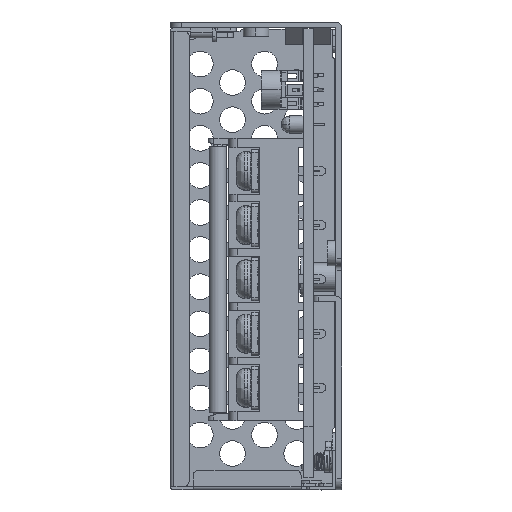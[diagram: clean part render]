
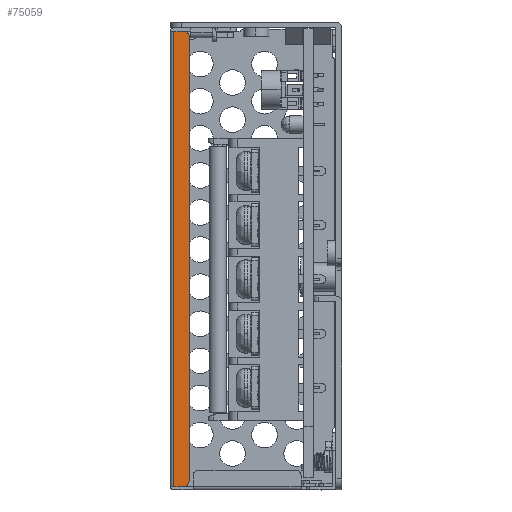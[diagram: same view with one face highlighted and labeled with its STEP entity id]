
A CAD part, left-side view. The second image highlights one B-rep face of the part: STEP entity #75059.
In plain terms, the highlighted planar face has unit normal (1, 0, 0).
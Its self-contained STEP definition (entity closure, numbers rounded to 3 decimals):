
#1731 = ORIENTED_EDGE ( 'NONE', *, *, #73904, .T. ) ;
#2346 = CARTESIAN_POINT ( 'NONE',  ( -31.5, 27.7, 38.4 ) ) ;
#2637 = AXIS2_PLACEMENT_3D ( 'NONE', #37204, #61670, #68317 ) ;
#4388 = CARTESIAN_POINT ( 'NONE',  ( -31.5, 29.4, 39.4 ) ) ;
#5787 = EDGE_CURVE ( 'NONE', #46230, #7942, #66250, .T. ) ;
#7942 = VERTEX_POINT ( 'NONE', #64921 ) ;
#13671 = CARTESIAN_POINT ( 'NONE',  ( -31.5, 28.05, -40.4 ) ) ;
#17099 = CARTESIAN_POINT ( 'NONE',  ( -31.5, 29.4, 39.4 ) ) ;
#17715 = CIRCLE ( 'NONE', #68174, 1. ) ;
#20649 = VECTOR ( 'NONE', #44787, 1000. ) ;
#21347 = LINE ( 'NONE', #13671, #20649 ) ;
#22409 = PLANE ( 'NONE',  #2637 ) ;
#24779 = DIRECTION ( 'NONE',  ( 1., 0., 0. ) ) ;
#26928 = EDGE_LOOP ( 'NONE', ( #29303, #86138, #56281, #53771, #1731, #84496 ) ) ;
#29303 = ORIENTED_EDGE ( 'NONE', *, *, #5787, .T. ) ;
#32832 = DIRECTION ( 'NONE',  ( 0., -1., 0. ) ) ;
#33844 = CARTESIAN_POINT ( 'NONE',  ( -31.5, 28.05, 39.4 ) ) ;
#37204 = CARTESIAN_POINT ( 'NONE',  ( -31.5, 30., -40.4 ) ) ;
#39711 = CARTESIAN_POINT ( 'NONE',  ( -31.5, 27.7, -39.4 ) ) ;
#43003 = EDGE_CURVE ( 'NONE', #99014, #72753, #21347, .T. ) ;
#43626 = LINE ( 'NONE', #4388, #56802 ) ;
#44787 = DIRECTION ( 'NONE',  ( 0., 1., 0. ) ) ;
#46230 = VERTEX_POINT ( 'NONE', #86790 ) ;
#49401 = CARTESIAN_POINT ( 'NONE',  ( -31.5, 26.7, -0.5 ) ) ;
#50449 = DIRECTION ( 'NONE',  ( 0., 0., -1. ) ) ;
#52831 = AXIS2_PLACEMENT_3D ( 'NONE', #39711, #70817, #94301 ) ;
#53771 = ORIENTED_EDGE ( 'NONE', *, *, #63373, .T. ) ;
#56281 = ORIENTED_EDGE ( 'NONE', *, *, #43003, .T. ) ;
#56802 = VECTOR ( 'NONE', #65567, 1000. ) ;
#58109 = VECTOR ( 'NONE', #32832, 1000. ) ;
#61670 = DIRECTION ( 'NONE',  ( -1., 0., 0. ) ) ;
#63226 = EDGE_CURVE ( 'NONE', #96288, #46230, #17715, .T. ) ;
#63373 = EDGE_CURVE ( 'NONE', #72753, #88961, #43626, .T. ) ;
#63549 = DIRECTION ( 'NONE',  ( 0., 0., 1. ) ) ;
#64921 = CARTESIAN_POINT ( 'NONE',  ( -31.5, 26.7, -39.4 ) ) ;
#65567 = DIRECTION ( 'NONE',  ( 0., 0., 1. ) ) ;
#66250 = LINE ( 'NONE', #49401, #78591 ) ;
#67021 = CARTESIAN_POINT ( 'NONE',  ( -31.5, 27.7, -40.4 ) ) ;
#68174 = AXIS2_PLACEMENT_3D ( 'NONE', #2346, #24779, #63549 ) ;
#68317 = DIRECTION ( 'NONE',  ( 0., 0., 1. ) ) ;
#70457 = CARTESIAN_POINT ( 'NONE',  ( -31.5, 29.4, -40.4 ) ) ;
#70817 = DIRECTION ( 'NONE',  ( 1., 0., 0. ) ) ;
#72609 = LINE ( 'NONE', #33844, #58109 ) ;
#72753 = VERTEX_POINT ( 'NONE', #70457 ) ;
#73904 = EDGE_CURVE ( 'NONE', #88961, #96288, #72609, .T. ) ;
#74018 = CIRCLE ( 'NONE', #52831, 1. ) ;
#75059 = ADVANCED_FACE ( 'NONE', ( #82599 ), #22409, .F. ) ;
#78591 = VECTOR ( 'NONE', #50449, 1000. ) ;
#80346 = CARTESIAN_POINT ( 'NONE',  ( -31.5, 27.7, 39.4 ) ) ;
#82599 = FACE_OUTER_BOUND ( 'NONE', #26928, .T. ) ;
#84496 = ORIENTED_EDGE ( 'NONE', *, *, #63226, .T. ) ;
#86138 = ORIENTED_EDGE ( 'NONE', *, *, #91105, .T. ) ;
#86790 = CARTESIAN_POINT ( 'NONE',  ( -31.5, 26.7, 38.4 ) ) ;
#88961 = VERTEX_POINT ( 'NONE', #17099 ) ;
#91105 = EDGE_CURVE ( 'NONE', #7942, #99014, #74018, .T. ) ;
#94301 = DIRECTION ( 'NONE',  ( 0., 0., 1. ) ) ;
#96288 = VERTEX_POINT ( 'NONE', #80346 ) ;
#99014 = VERTEX_POINT ( 'NONE', #67021 ) ;
